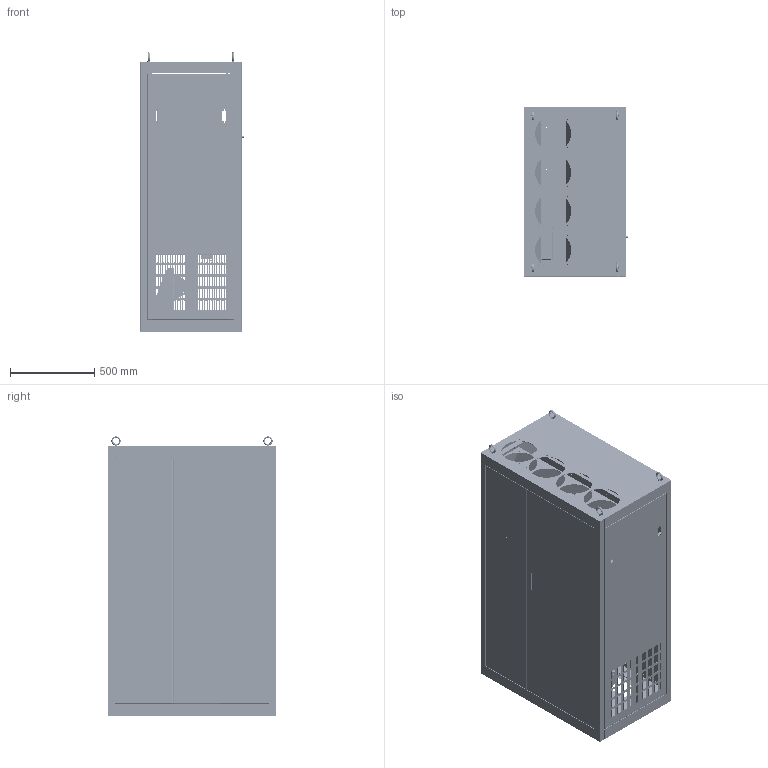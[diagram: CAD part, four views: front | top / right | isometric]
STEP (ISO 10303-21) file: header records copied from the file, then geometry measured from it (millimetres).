
FILE_DESCRIPTION(('STEP AP203'), '1');
FILE_NAME('Ïðåîáðàçîâàòåëü ÷àñòîòû _ MCI-P500-4F', '', ('UNSPECIFIED'), ('UNSPECIFIED'), 'C3D Converter', 'C3D Toolkit', '');
FILE_SCHEMA(('CONFIG_CONTROL_DESIGN'));
Length unit declared in the file: millimetre
Products named in the file (59): MCI-P500-4F; MCI-P500; FCI-P500; MCI-MF-B; MCI-KP-B
Assembly tree (243 placements, depth 4):
  MCI-P500-4F
    MCI-P500
      MCI-P500
        MCI-P500
        MCI-P500  x4
        MCI-P500  x4
        MCI-P500  x4
        MCI-P500  x4
        MCI-P500  x4
      MCI-P500
        MCI-P500
        MCI-P500  x4
      MCI-P500  x2
      MCI-P500  x2
      MCI-P500  x4
        MCI-P500
        MCI-P500
      MCI-P500
    MCI-P500  x12
      MCI-P500
      MCI-P500
        MCI-P500
        MCI-P500  x2
      MCI-P500
        MCI-P500
        FCI-P500
    MCI-P500
      MCI-P500
      MCI-P500  x49
      MCI-P500  x2
    MCI-P500
      MCI-P500
      FCI-P500  x16
    MCI-P500  x2
      MCI-P500
      MCI-P500
    MCI-P500
    MCI-P500
    MCI-P500  x2
      MCI-P500
      MCI-P500
    MCI-P500  x4
    MCI-P500
      MCI-P500
      FCI-P500  x6
    MCI-P500
      MCI-P500
      MCI-P500  x5
    MCI-P500
      MCI-P500
      MCI-P500  x6
    MCI-P500
      MCI-P500
      MCI-P500  x17
      MCI-P500  x4
      MCI-P500  x3
    MCI-P500  x2
    MCI-P500
      MCI-P500
      MCI-P500  x4
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Bounding box: 613.62 x 1000.5 x 1654.96 mm (x, y, z)
Volume: 20209025.6 mm3; surface area: 25440527.4 mm2
Topology: 347 solids, 355 shells, 8233 faces, 19888 edges, 12552 vertices
Faces by surface type: plane 4837, cylinder 3038, revolution 218, cone 66, extrusion 48, torus 20, bspline 4, sphere 2
Full cylindrical faces by diameter (mm): 0.2 x4, 1 x20, 1.7 x2, 2 x4, 2.7 x4, 3 x21, 4 x21, 4.4 x15, 5 x34, 5.4 x113, 5.5 x6, 6 x158, 6.4 x224, 7 x152, 7.9 x17, 8 x131, 8.7 x48, 8.75 x136, 8.8 x150, 10.4 x4, 10.5 x4, 11 x150, 12 x5, 12.5 x8, 12.65 x4, 13 x4, 14.9 x4, 16 x12, 18 x10, 19 x8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
Entity records: 117078 total; most frequent: CARTESIAN_POINT 23001, DIRECTION 17525, ORIENTED_EDGE 16666, EDGE_CURVE 8339, AXIS2_PLACEMENT_3D 5905, VECTOR 5677, LINE 5629, VERTEX_POINT 5605
